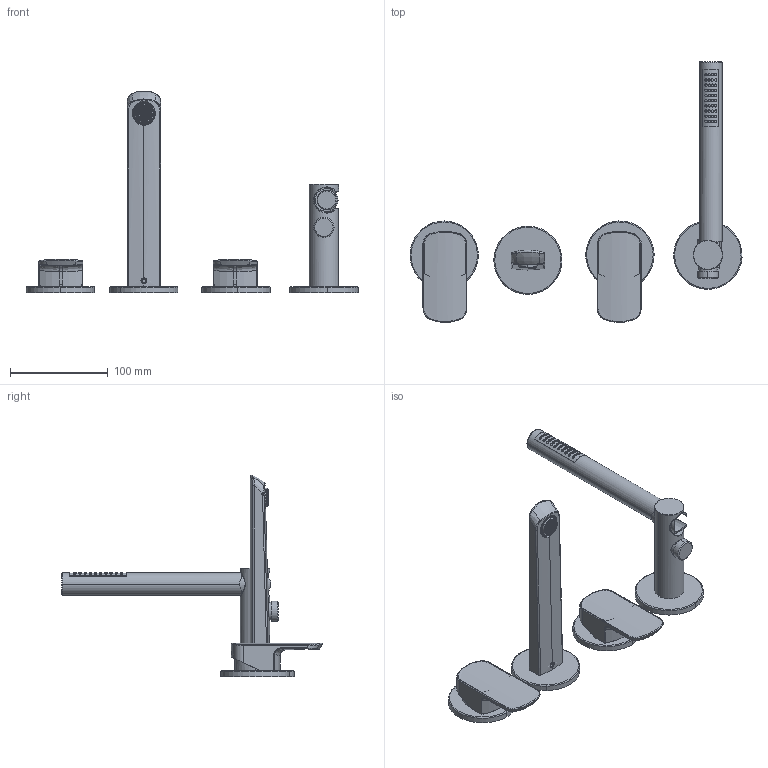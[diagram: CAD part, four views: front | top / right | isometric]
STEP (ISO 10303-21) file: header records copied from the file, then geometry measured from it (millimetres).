
FILE_DESCRIPTION (( 'STEP AP214' ), '1' );
FILE_NAME ('56139910 x architetti.STEP', '2025-04-16T12:45:37', ( '' ), ( '' ), 'SwSTEP 2.0', 'SolidWorks 2020', '' );
FILE_SCHEMA (( 'AUTOMOTIVE_DESIGN' ));
Length unit declared in the file: millimetre
Products named in the file (1): 56139910 x architetti
Bounding box: 339.98 x 266.93 x 206.8 mm (x, y, z)
Volume: 444907.4 mm3; surface area: 127835.2 mm2
Topology: 6 solids, 22 shells, 2110 faces, 5258 edges, 3257 vertices
Faces by surface type: plane 1087, cylinder 835, bspline 96, cone 67, torus 25
Entity records: 97246 total; most frequent: CARTESIAN_POINT 29119, ORIENTED_EDGE 10500, DIRECTION 7931, EDGE_CURVE 5250, VERTEX_POINT 3257, VECTOR 2939, LINE 2939, AXIS2_PLACEMENT_3D 2496
